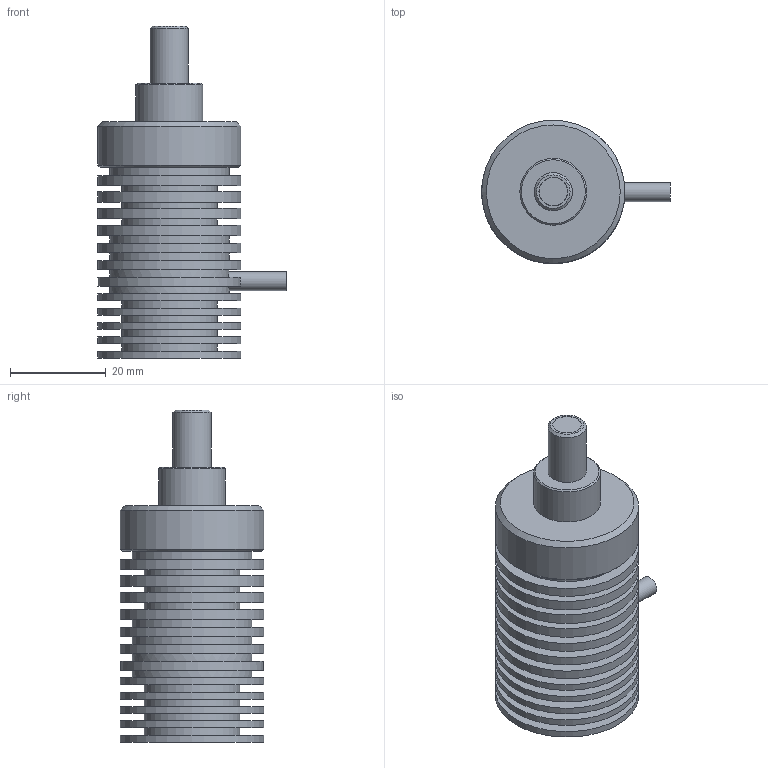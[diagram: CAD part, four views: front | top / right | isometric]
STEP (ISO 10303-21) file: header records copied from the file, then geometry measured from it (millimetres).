
FILE_DESCRIPTION(('STEP AP214'),'1');
FILE_NAME('LED-3WD.stp','2025-06-02T05:54:31',(' '),(' '),'Spatial InterOp 3D',' ',' ');
FILE_SCHEMA(('AUTOMOTIVE_DESIGN { 1 0 10303 214 1 1 1 1 }'));
Length unit declared in the file: metre
Products named in the file (2): LED-3WD; Component1
Assembly tree (1 placements, depth 2):
  LED-3WD
    Component1
Bounding box: 39.5 x 30 x 69.5 mm (x, y, z)
Volume: 29215.7 mm3; surface area: 14474 mm2
Topology: 1 solids, 1 shells, 70 faces, 118 edges, 78 vertices
Faces by surface type: plane 33, cylinder 32, cone 5
Full cylindrical faces by diameter (mm): 4 x1, 4.2 x1, 5.95 x1, 6 x1, 8 x1, 14 x1, 15 x1, 20 x7, 25 x5, 30 x12
Entity records: 2475 total; most frequent: DIRECTION 284, CARTESIAN_POINT 272, ORIENTED_EDGE 152, STYLED_ITEM 147, PRESENTATION_STYLE_ASSIGNMENT 147, COLOUR_RGB 147, AXIS2_PLACEMENT_3D 140, EDGE_LOOP 134
